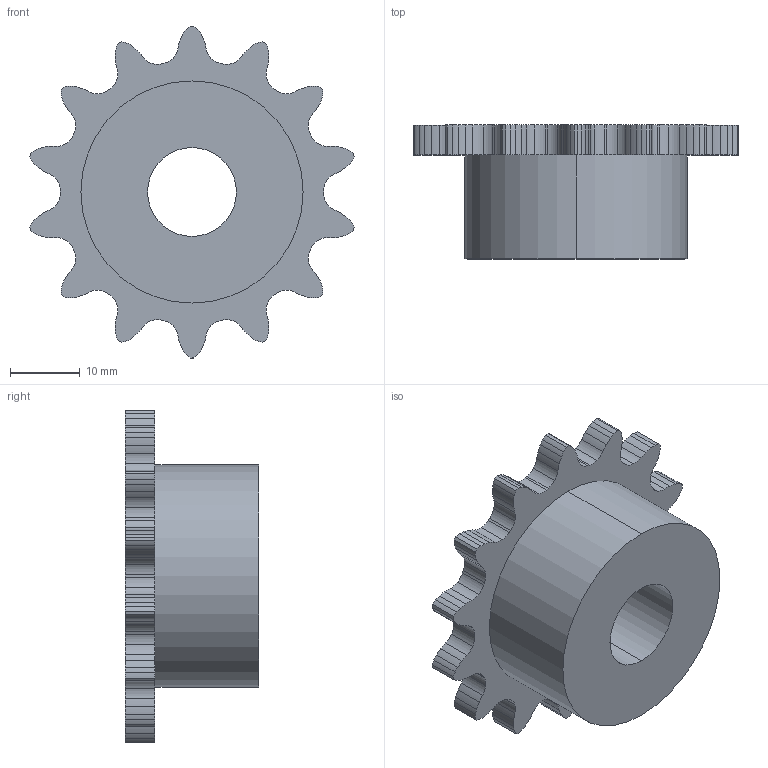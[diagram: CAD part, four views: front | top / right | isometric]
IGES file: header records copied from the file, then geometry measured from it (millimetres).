
Global section: file name: C:\Documents and Settings\Administrator\Desktop\Transfer Temp\rcss-3814.igs; native system: AutoDesk Inventor R2.0 ; preprocessor: AutoDesk Inventor Iges Exporter R2.0; author: No Author specified; organization: No Organization specified; date: 20011229.130950; units: inch
Bounding box: 46.37 x 19.13 x 47.45 mm (x, y, z)
Surface area: 5586.3 mm2 (no closed solid volume)
Topology: 0 solids, 0 shells, 203 faces, 1200 edges, 1200 vertices
Faces by surface type: revolution 172, bspline 31
